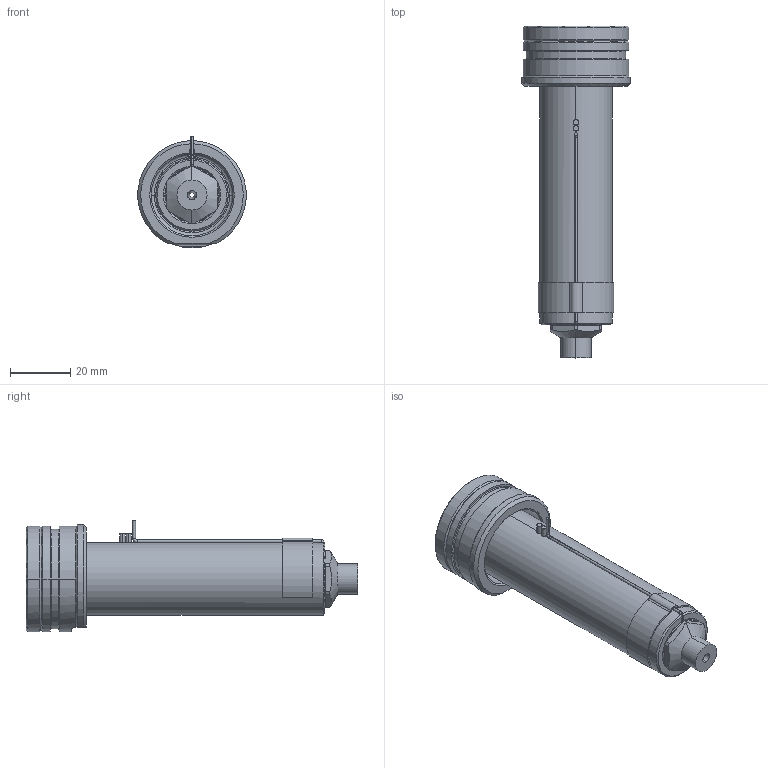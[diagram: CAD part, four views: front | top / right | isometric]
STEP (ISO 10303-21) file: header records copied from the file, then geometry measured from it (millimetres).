
FILE_DESCRIPTION((''),'2;1');
FILE_NAME('EO06_VG-ST_STD_090_SW','2024-02-19T12:38:02',('sundharh'),(''),'CREO PARAMETRIC BY PTC INC, 2023154','CREO PARAMETRIC BY PTC INC, 2023154','');
FILE_SCHEMA(('CONFIG_CONTROL_DESIGN'));
Length unit declared in the file: millimetre
Products named in the file (1): EO06_VG-ST_STD_090_SW
Bounding box: 35.93 x 110 x 37 mm (x, y, z)
Volume: 51779.7 mm3; surface area: 15389.4 mm2
Topology: 2 solids, 2 shells, 176 faces, 448 edges, 273 vertices
Faces by surface type: cylinder 68, plane 41, cone 34, torus 21, bspline 10, sphere 2
Entity records: 6106 total; most frequent: CARTESIAN_POINT 1791, DIRECTION 952, ORIENTED_EDGE 884, EDGE_CURVE 442, AXIS2_PLACEMENT_3D 398, VERTEX_POINT 273, CIRCLE 232, EDGE_LOOP 189
